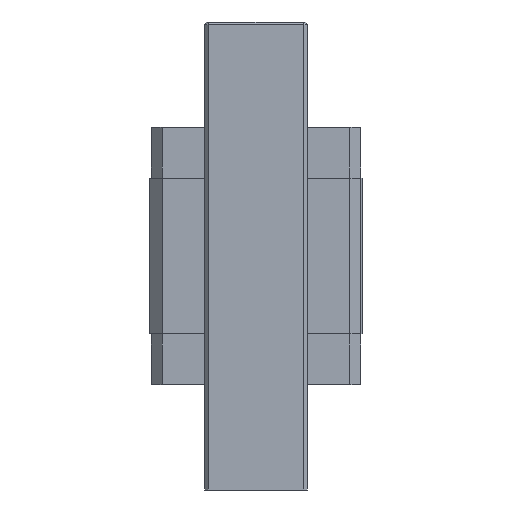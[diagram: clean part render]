
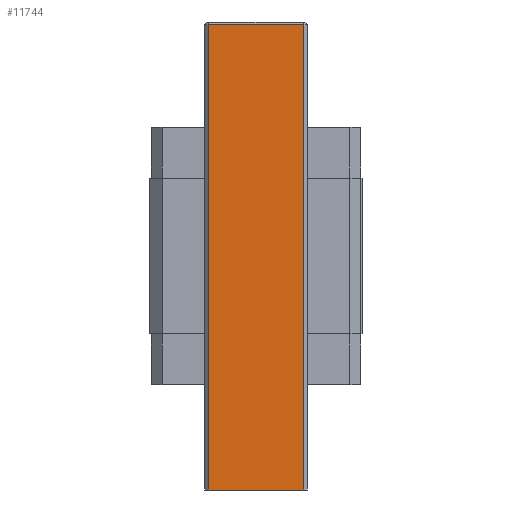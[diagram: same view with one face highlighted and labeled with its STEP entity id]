
A CAD part, front view. The second image highlights one B-rep face of the part: STEP entity #11744.
In plain terms, the highlighted planar face has unit normal (0, -1, 0).
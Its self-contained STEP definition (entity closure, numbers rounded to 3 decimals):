
#10705=DIRECTION('',(1.,0.,0.));
#10706=VECTOR('',#10705,31.6);
#10707=CARTESIAN_POINT('',(-15.8,-18.5,-77.25));
#10708=LINE('',#10707,#10706);
#10978=DIRECTION('',(1.,0.,0.));
#10979=VECTOR('',#10978,31.6);
#10980=CARTESIAN_POINT('',(-15.8,-18.5,76.384));
#10981=LINE('',#10980,#10979);
#10982=DIRECTION('',(0.,0.,1.));
#10983=VECTOR('',#10982,153.634);
#10984=CARTESIAN_POINT('',(-15.8,-18.5,-77.25));
#10985=LINE('',#10984,#10983);
#10990=DIRECTION('',(0.,0.,1.));
#10991=VECTOR('',#10990,153.634);
#10992=CARTESIAN_POINT('',(15.8,-18.5,-77.25));
#10993=LINE('',#10992,#10991);
#11176=CARTESIAN_POINT('',(-15.8,-18.5,-77.25));
#11177=VERTEX_POINT('',#11176);
#11178=CARTESIAN_POINT('',(15.8,-18.5,-77.25));
#11179=VERTEX_POINT('',#11178);
#11240=CARTESIAN_POINT('',(15.8,-18.5,76.384));
#11241=VERTEX_POINT('',#11240);
#11244=CARTESIAN_POINT('',(-15.8,-18.5,76.384));
#11245=VERTEX_POINT('',#11244);
#11732=CARTESIAN_POINT('',(-15.8,-18.5,-77.25));
#11733=DIRECTION('',(0.,-1.,0.));
#11734=DIRECTION('',(1.,0.,0.));
#11735=AXIS2_PLACEMENT_3D('',#11732,#11733,#11734);
#11736=PLANE('',#11735);
#11737=ORIENTED_EDGE('',*,*,#11723,.T.);
#11739=ORIENTED_EDGE('',*,*,#11738,.F.);
#11740=ORIENTED_EDGE('',*,*,#11325,.F.);
#11741=ORIENTED_EDGE('',*,*,#11698,.T.);
#11742=EDGE_LOOP('',(#11737,#11739,#11740,#11741));
#11743=FACE_OUTER_BOUND('',#11742,.F.);
#11325=EDGE_CURVE('',#11177,#11179,#10708,.T.);
#11698=EDGE_CURVE('',#11177,#11245,#10985,.T.);
#11723=EDGE_CURVE('',#11245,#11241,#10981,.T.);
#11738=EDGE_CURVE('',#11179,#11241,#10993,.T.);
#11744=ADVANCED_FACE('',(#11743),#11736,.T.);
